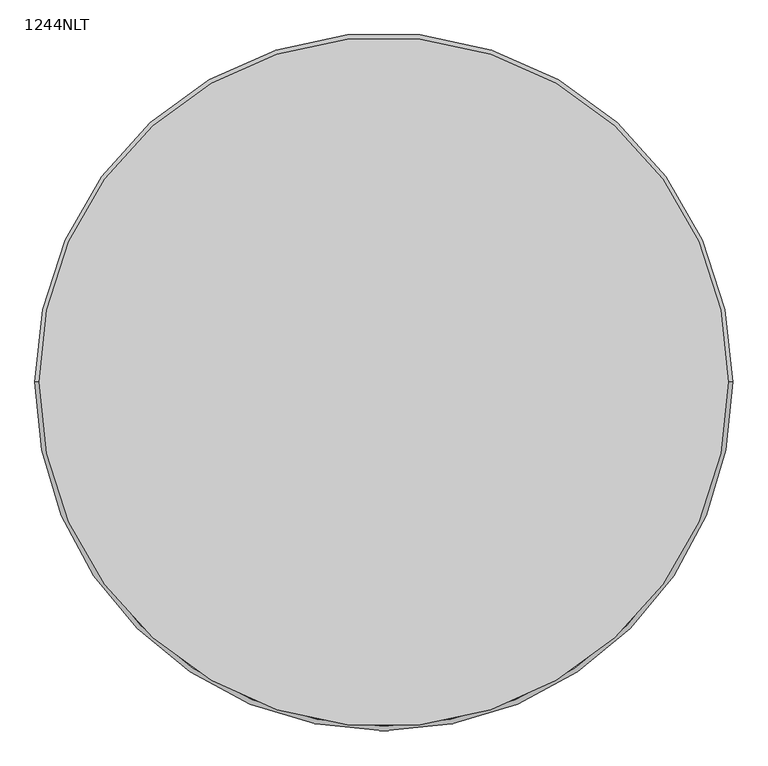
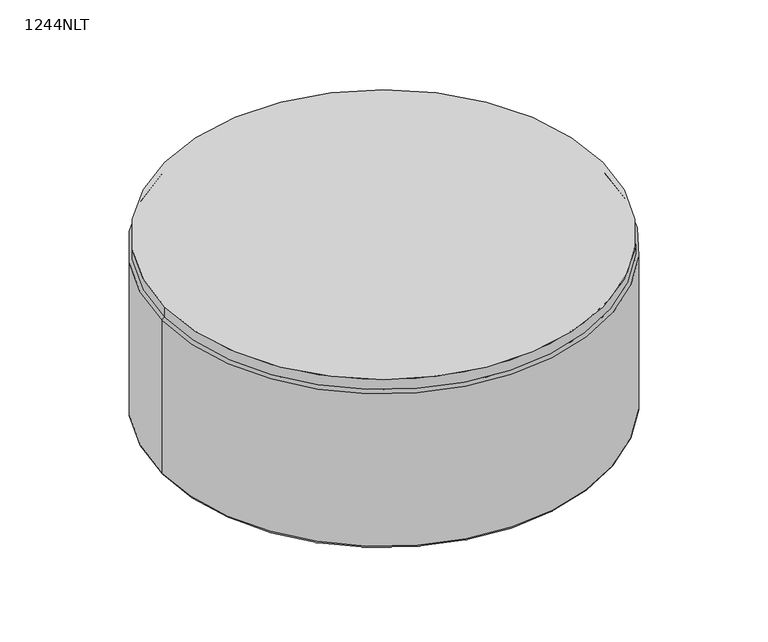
"""IFC4 building model written with IfcOpenShell, lengths in millimetres: furniture geometry, Laguna-Round_Ottomans-No_Legs-ERG : 1244NLT."""

from ifc_helpers import new_model, si_unit, point, frame, frame_2d, origin, place, context, project, spatial, circle_curve, ellipse_curve, trimmed, segment, composite_curve, outline, extrude, source, transform, mapped, element, save
from ifc_brep_helpers import plane_surface, cylinder_surface, revolved_surface, advanced_brep


def furniture_1244nlt_2f33470e(model_context):
    return source(origin(), model_context, "Body", "SolidModel", [
        extrude(outline(composite_curve([segment(trimmed(circle_curve(frame_2d((-4662.7421763, 1234.1558502)), 520.7), [point((-5183.4421763, 1234.1558502))], [point((-4142.0421763, 1234.1558502))], False, "CARTESIAN"), True, "CONTINUOUS"), segment(trimmed(circle_curve(frame_2d((-4662.7421763, 1234.1558502)), 520.7), [point((-4142.0421763, 1234.1558502))], [point((-5183.4421763, 1234.1558502))], False, "CARTESIAN"), True, "CONTINUOUS")], self_intersect=False)), frame((0.0, 0.0, 406.4), z_axis=(0.0, 0.0, 1.0), x_axis=(1.0, 0.0, 0.0)), (0.0, 0.0, 1.0), 25.4),
        advanced_brep(
        [(-4167.4421763, 1234.1558502, 10.16), (-4171.6852245, 1234.1558502, 10.16), (-4163.1991282, 1234.1558502, 10.16), (-4153.3638229, 1234.1558502, 0.0), (-4181.5205297, 1234.1558502, 0.0), (-4167.4421763, 1234.1558502, 0.0), (-4153.3638229, 1234.1558502, 3.9615026), (-4181.5205297, 1234.1558502, 3.9615026), (-4163.1991282, 1234.1558502, 3.9615026), (-4171.6852245, 1234.1558502, 3.9615026)],
        [
            (0, 1),
            (1, 2, circle_curve(frame((-4167.4421763, 1234.1558502, 10.16), z_axis=(0.0, 0.0, 1.0), x_axis=(-1.0, 0.0, 0.0)), 4.2430482)),
            (2, 0),
            (2, 1, circle_curve(frame((-4167.4421763, 1234.1558502, 10.16), z_axis=(0.0, 0.0, 1.0), x_axis=(-1.0, 0.0, 0.0)), 4.2430482)),
            (3, 4, circle_curve(frame((-4167.4421763, 1234.1558502, 0.0), z_axis=(0.0, 0.0, -1.0), x_axis=(-1.0, 0.0, 0.0)), 14.0783534)),
            (4, 5),
            (5, 3),
            (4, 3, circle_curve(frame((-4167.4421763, 1234.1558502, 0.0), z_axis=(0.0, 0.0, -1.0), x_axis=(-1.0, 0.0, 0.0)), 14.0783534)),
            (6, 7, circle_curve(frame((-4167.4421763, 1234.1558502, 3.9615026), z_axis=(0.0, 0.0, -1.0), x_axis=(-1.0, 0.0, 0.0)), 14.0783534)),
            (7, 4),
            (3, 6),
            (7, 6, circle_curve(frame((-4167.4421763, 1234.1558502, 3.9615026), z_axis=(0.0, 0.0, -1.0), x_axis=(-1.0, 0.0, 0.0)), 14.0783534)),
            (8, 9, circle_curve(frame((-4167.4421763, 1234.1558502, 3.9615026), z_axis=(0.0, 0.0, -1.0), x_axis=(-1.0, 0.0, 0.0)), 4.2430482)),
            (9, 7),
            (6, 8),
            (9, 8, circle_curve(frame((-4167.4421763, 1234.1558502, 3.9615026), z_axis=(0.0, 0.0, -1.0), x_axis=(-1.0, 0.0, 0.0)), 4.2430482)),
            (1, 9),
            (8, 2),
        ],
        [
            plane_surface(frame((-4167.4421763, 1234.1558502, 10.16), z_axis=(0.0, 0.0, 1.0), x_axis=(-1.0, 0.0, 0.0))),
            plane_surface(frame((-4167.4421763, 1234.1558502, 0.0), z_axis=(0.0, 0.0, -1.0), x_axis=(-1.0, 0.0, 0.0))),
            cylinder_surface(frame((-4167.4421763, 1234.1558502, 80.01), z_axis=(0.0, 0.0, 1.0), x_axis=(-1.0, 0.0, 0.0)), 14.0783534),
            plane_surface(frame((-4167.4421763, 1234.1558502, 3.9615026), z_axis=(0.0, 0.0, 1.0), x_axis=(-1.0, 0.0, 0.0))),
            cylinder_surface(frame((-4167.4421763, 1234.1558502, 80.01), z_axis=(0.0, 0.0, 1.0), x_axis=(-1.0, 0.0, 0.0)), 4.2430482),
        ],
        [
            (0, [[1, 2, 3]]),
            (0, [[-3, 4, -1]]),
            (1, [[5, 6, 7]]),
            (1, [[8, -7, -6]]),
            (2, [[9, 10, -5, 11]]),
            (2, [[12, -11, -8, -10]]),
            (3, [[13, 14, -9, 15]]),
            (3, [[16, -15, -12, -14]]),
            (4, [[-2, 17, -13, 18]]),
            (4, [[-4, -18, -16, -17]]),
        ],
    ),
        advanced_brep(
        [(-5162.2852245, 1234.1558502, 3.9615026), (-5153.7991282, 1234.1558502, 3.9615026), (-5153.7991282, 1234.1558502, 10.16), (-5162.2852245, 1234.1558502, 10.16), (-5172.1205297, 1234.1558502, 3.9615026), (-5143.9638229, 1234.1558502, 3.9615026), (-5172.1205297, 1234.1558502, 0.0), (-5143.9638229, 1234.1558502, 0.0), (-5158.0421763, 1234.1558502, 0.0), (-5158.0421763, 1234.1558502, 10.16)],
        [
            (0, 1, circle_curve(frame((-5158.0421763, 1234.1558502, 3.9615026), z_axis=(0.0, 0.0, 1.0), x_axis=(1.0, 0.0, 0.0)), 4.2430482)),
            (1, 2),
            (2, 3, circle_curve(frame((-5158.0421763, 1234.1558502, 10.16), z_axis=(0.0, 0.0, -1.0), x_axis=(1.0, 0.0, 0.0)), 4.2430482)),
            (3, 0),
            (1, 0, circle_curve(frame((-5158.0421763, 1234.1558502, 3.9615026), z_axis=(0.0, 0.0, 1.0), x_axis=(1.0, 0.0, 0.0)), 4.2430482)),
            (3, 2, circle_curve(frame((-5158.0421763, 1234.1558502, 10.16), z_axis=(0.0, 0.0, -1.0), x_axis=(1.0, 0.0, 0.0)), 4.2430482)),
            (4, 5, circle_curve(frame((-5158.0421763, 1234.1558502, 3.9615026), z_axis=(0.0, 0.0, 1.0), x_axis=(1.0, 0.0, 0.0)), 14.0783534)),
            (5, 1),
            (0, 4),
            (5, 4, circle_curve(frame((-5158.0421763, 1234.1558502, 3.9615026), z_axis=(0.0, 0.0, 1.0), x_axis=(1.0, 0.0, 0.0)), 14.0783534)),
            (6, 7, circle_curve(frame((-5158.0421763, 1234.1558502, 0.0), z_axis=(0.0, 0.0, 1.0), x_axis=(1.0, 0.0, 0.0)), 14.0783534)),
            (7, 5),
            (4, 6),
            (7, 6, circle_curve(frame((-5158.0421763, 1234.1558502, 0.0), z_axis=(0.0, 0.0, 1.0), x_axis=(1.0, 0.0, 0.0)), 14.0783534)),
            (8, 7),
            (6, 8),
            (2, 9),
            (9, 3),
        ],
        [
            cylinder_surface(frame((-5158.0421763, 1234.1558502, 29.21), z_axis=(0.0, 0.0, -1.0), x_axis=(1.0, 0.0, 0.0)), 4.2430482),
            plane_surface(frame((-5158.0421763, 1234.1558502, 3.9615026), z_axis=(0.0, 0.0, 1.0), x_axis=(1.0, 0.0, 0.0))),
            cylinder_surface(frame((-5158.0421763, 1234.1558502, 29.21), z_axis=(0.0, 0.0, -1.0), x_axis=(1.0, 0.0, 0.0)), 14.0783534),
            plane_surface(frame((-5158.0421763, 1234.1558502, 0.0), z_axis=(0.0, 0.0, -1.0), x_axis=(1.0, 0.0, 0.0))),
            plane_surface(frame((-5158.0421763, 1234.1558502, 10.16), z_axis=(0.0, 0.0, 1.0), x_axis=(1.0, 0.0, 0.0))),
        ],
        [
            (0, [[1, 2, 3, 4]]),
            (0, [[5, -4, 6, -2]]),
            (1, [[7, 8, -1, 9]]),
            (1, [[10, -9, -5, -8]]),
            (2, [[11, 12, -7, 13]]),
            (2, [[14, -13, -10, -12]]),
            (3, [[15, -11, 16]]),
            (3, [[-16, -14, -15]]),
            (4, [[-3, 17, 18]]),
            (4, [[-6, -18, -17]]),
        ],
    ),
        advanced_brep(
        [(-4662.7421763, 743.0988983, 3.9615026), (-4662.7421763, 734.612802, 3.9615026), (-4662.7421763, 734.612802, 10.16), (-4662.7421763, 743.0988983, 10.16), (-4662.7421763, 752.9342036, 3.9615026), (-4662.7421763, 724.7774967, 3.9615026), (-4662.7421763, 752.9342036, 0.0), (-4662.7421763, 724.7774967, 0.0), (-4662.7421763, 738.8558502, 0.0), (-4662.7421763, 738.8558502, 10.16)],
        [
            (0, 1, circle_curve(frame((-4662.7421763, 738.8558502, 3.9615026), z_axis=(0.0, 0.0, 1.0), x_axis=(0.0, -1.0, 0.0)), 4.2430482)),
            (1, 2),
            (2, 3, circle_curve(frame((-4662.7421763, 738.8558502, 10.16), z_axis=(0.0, 0.0, -1.0), x_axis=(0.0, -1.0, 0.0)), 4.2430482)),
            (3, 0),
            (1, 0, circle_curve(frame((-4662.7421763, 738.8558502, 3.9615026), z_axis=(0.0, 0.0, 1.0), x_axis=(0.0, -1.0, 0.0)), 4.2430482)),
            (3, 2, circle_curve(frame((-4662.7421763, 738.8558502, 10.16), z_axis=(0.0, 0.0, -1.0), x_axis=(0.0, -1.0, 0.0)), 4.2430482)),
            (4, 5, circle_curve(frame((-4662.7421763, 738.8558502, 3.9615026), z_axis=(0.0, 0.0, 1.0), x_axis=(0.0, -1.0, 0.0)), 14.0783534)),
            (5, 1),
            (0, 4),
            (5, 4, circle_curve(frame((-4662.7421763, 738.8558502, 3.9615026), z_axis=(0.0, 0.0, 1.0), x_axis=(0.0, -1.0, 0.0)), 14.0783534)),
            (6, 7, circle_curve(frame((-4662.7421763, 738.8558502, 0.0), z_axis=(0.0, 0.0, 1.0), x_axis=(0.0, -1.0, 0.0)), 14.0783534)),
            (7, 5),
            (4, 6),
            (7, 6, circle_curve(frame((-4662.7421763, 738.8558502, 0.0), z_axis=(0.0, 0.0, 1.0), x_axis=(0.0, -1.0, 0.0)), 14.0783534)),
            (8, 7),
            (6, 8),
            (2, 9),
            (9, 3),
        ],
        [
            cylinder_surface(frame((-4662.7421763, 738.8558502, 39.775957), z_axis=(0.0, 0.0, -1.0), x_axis=(0.0, -1.0, 0.0)), 4.2430482),
            plane_surface(frame((-4662.7421763, 738.8558502, 3.9615026), z_axis=(0.0, 0.0, 1.0), x_axis=(0.0, -1.0, 0.0))),
            cylinder_surface(frame((-4662.7421763, 738.8558502, 39.775957), z_axis=(0.0, 0.0, -1.0), x_axis=(0.0, -1.0, 0.0)), 14.0783534),
            plane_surface(frame((-4662.7421763, 738.8558502, 0.0), z_axis=(0.0, 0.0, -1.0), x_axis=(0.0, -1.0, 0.0))),
            plane_surface(frame((-4662.7421763, 738.8558502, 10.16), z_axis=(0.0, 0.0, 1.0), x_axis=(0.0, -1.0, 0.0))),
        ],
        [
            (0, [[1, 2, 3, 4]]),
            (0, [[5, -4, 6, -2]]),
            (1, [[7, 8, -1, 9]]),
            (1, [[10, -9, -5, -8]]),
            (2, [[11, 12, -7, 13]]),
            (2, [[14, -13, -10, -12]]),
            (3, [[15, -11, 16]]),
            (3, [[-16, -14, -15]]),
            (4, [[-3, 17, 18]]),
            (4, [[-6, -18, -17]]),
        ],
    ),
        advanced_brep(
        [(-4662.7421763, 1733.6988983, 3.9615026), (-4662.7421763, 1725.212802, 3.9615026), (-4662.7421763, 1725.212802, 10.16), (-4662.7421763, 1733.6988983, 10.16), (-4662.7421763, 1743.5342036, 3.9615026), (-4662.7421763, 1715.3774967, 3.9615026), (-4662.7421763, 1743.5342036, 0.0), (-4662.7421763, 1715.3774967, 0.0), (-4662.7421763, 1729.4558502, 0.0), (-4662.7421763, 1729.4558502, 10.16)],
        [
            (0, 1, circle_curve(frame((-4662.7421763, 1729.4558502, 3.9615026), z_axis=(0.0, 0.0, 1.0), x_axis=(0.0, -1.0, 0.0)), 4.2430482)),
            (1, 2),
            (2, 3, circle_curve(frame((-4662.7421763, 1729.4558502, 10.16), z_axis=(0.0, 0.0, -1.0), x_axis=(0.0, -1.0, 0.0)), 4.2430482)),
            (3, 0),
            (1, 0, circle_curve(frame((-4662.7421763, 1729.4558502, 3.9615026), z_axis=(0.0, 0.0, 1.0), x_axis=(0.0, -1.0, 0.0)), 4.2430482)),
            (3, 2, circle_curve(frame((-4662.7421763, 1729.4558502, 10.16), z_axis=(0.0, 0.0, -1.0), x_axis=(0.0, -1.0, 0.0)), 4.2430482)),
            (4, 5, circle_curve(frame((-4662.7421763, 1729.4558502, 3.9615026), z_axis=(0.0, 0.0, 1.0), x_axis=(0.0, -1.0, 0.0)), 14.0783534)),
            (5, 1),
            (0, 4),
            (5, 4, circle_curve(frame((-4662.7421763, 1729.4558502, 3.9615026), z_axis=(0.0, 0.0, 1.0), x_axis=(0.0, -1.0, 0.0)), 14.0783534)),
            (6, 7, circle_curve(frame((-4662.7421763, 1729.4558502, 0.0), z_axis=(0.0, 0.0, 1.0), x_axis=(0.0, -1.0, 0.0)), 14.0783534)),
            (7, 5),
            (4, 6),
            (7, 6, circle_curve(frame((-4662.7421763, 1729.4558502, 0.0), z_axis=(0.0, 0.0, 1.0), x_axis=(0.0, -1.0, 0.0)), 14.0783534)),
            (8, 7),
            (6, 8),
            (2, 9),
            (9, 3),
        ],
        [
            cylinder_surface(frame((-4662.7421763, 1729.4558502, 48.26), z_axis=(0.0, 0.0, -1.0), x_axis=(0.0, -1.0, 0.0)), 4.2430482),
            plane_surface(frame((-4662.7421763, 1729.4558502, 3.9615026), z_axis=(0.0, 0.0, 1.0), x_axis=(0.0, -1.0, 0.0))),
            cylinder_surface(frame((-4662.7421763, 1729.4558502, 48.26), z_axis=(0.0, 0.0, -1.0), x_axis=(0.0, -1.0, 0.0)), 14.0783534),
            plane_surface(frame((-4662.7421763, 1729.4558502, 0.0), z_axis=(0.0, 0.0, -1.0), x_axis=(0.0, -1.0, 0.0))),
            plane_surface(frame((-4662.7421763, 1729.4558502, 10.16), z_axis=(0.0, 0.0, 1.0), x_axis=(0.0, -1.0, 0.0))),
        ],
        [
            (0, [[1, 2, 3, 4]]),
            (0, [[5, -4, 6, -2]]),
            (1, [[7, 8, -1, 9]]),
            (1, [[10, -9, -5, -8]]),
            (2, [[11, 12, -7, 13]]),
            (2, [[14, -13, -10, -12]]),
            (3, [[15, -11, 16]]),
            (3, [[-16, -14, -15]]),
            (4, [[-3, 17, 18]]),
            (4, [[-6, -18, -17]]),
        ],
    ),
        advanced_brep(
        [(-4135.681116, 1234.1558502, 399.8831003), (-5189.8032366, 1234.1558502, 399.8831003), (-5189.8032366, 1234.1558502, 16.6768997), (-4135.681116, 1234.1558502, 16.6768997), (-4142.6439761, 1234.1558502, 406.4), (-5182.8403765, 1234.1558502, 406.4), (-5182.8403765, 1234.1558502, 10.16), (-4142.6439761, 1234.1558502, 10.16)],
        [
            (0, 1, circle_curve(frame((-4662.7421763, 1234.1558502, 399.8831003), z_axis=(0.0, 0.0, -1.0), x_axis=(-1.0, 0.0, 0.0)), 527.0610603)),
            (1, 2, circle_curve(frame((-2297.2401763, 1234.1558502, 208.28), z_axis=(0.0, -1.0, 0.0), x_axis=(1.0, 0.0, 0.0)), 2898.902)),
            (2, 3, circle_curve(frame((-4662.7421763, 1234.1558502, 16.6768997), z_axis=(0.0, 0.0, 1.0), x_axis=(-1.0, 0.0, 0.0)), 527.0610603)),
            (3, 0, circle_curve(frame((-7028.2441763, 1234.1558502, 208.28), z_axis=(0.0, -1.0, 0.0), x_axis=(-1.0, 0.0, 0.0)), 2898.902)),
            (0, 4, circle_curve(frame((-4142.6439761, 1234.1558502, 399.4218811), z_axis=(0.0, -1.0, 0.0), x_axis=(-1.0, 0.0, 0.0)), 6.9781189)),
            (4, 5, circle_curve(frame((-4662.7421763, 1234.1558502, 406.4), z_axis=(0.0, 0.0, -1.0), x_axis=(-1.0, 0.0, 0.0)), 520.0982002)),
            (5, 1, circle_curve(frame((-5182.8403765, 1234.1558502, 399.4218811), z_axis=(0.0, -1.0, 0.0), x_axis=(1.0, 0.0, 0.0)), 6.9781189)),
            (2, 6, circle_curve(frame((-5182.8403765, 1234.1558502, 17.1381189), z_axis=(0.0, -1.0, 0.0), x_axis=(1.0, 0.0, 0.0)), 6.9781189)),
            (6, 7, circle_curve(frame((-4662.7421763, 1234.1558502, 10.16), z_axis=(0.0, 0.0, 1.0), x_axis=(-1.0, 0.0, 0.0)), 520.0982002)),
            (7, 3, circle_curve(frame((-4142.6439761, 1234.1558502, 17.1381189), z_axis=(0.0, -1.0, 0.0), x_axis=(-1.0, 0.0, 0.0)), 6.9781189)),
            (1, 0, circle_curve(frame((-4662.7421763, 1234.1558502, 399.8831003), z_axis=(0.0, 0.0, -1.0), x_axis=(1.0, 0.0, 0.0)), 527.0610603)),
            (3, 2, circle_curve(frame((-4662.7421763, 1234.1558502, 16.6768997), z_axis=(0.0, 0.0, 1.0), x_axis=(1.0, 0.0, 0.0)), 527.0610603)),
            (5, 4, circle_curve(frame((-4662.7421763, 1234.1558502, 406.4), z_axis=(0.0, 0.0, -1.0), x_axis=(1.0, 0.0, 0.0)), 520.0982002)),
            (7, 6, circle_curve(frame((-4662.7421763, 1234.1558502, 10.16), z_axis=(0.0, 0.0, 1.0), x_axis=(1.0, 0.0, 0.0)), 520.0982002)),
        ],
        [
            revolved_surface(trimmed(ellipse_curve(frame((-2297.2401763, 1234.1558502, 208.28), z_axis=(0.0, 1.0, 0.0), x_axis=(1.0, 0.0, 0.0)), 2898.902, 2898.902), [point((-5189.8032366, 1234.1558502, 16.6768997))], [point((-5189.8032366, 1234.1558502, 399.8831003))], True, "CARTESIAN"), (-4662.7421763, 1234.1558502, 0.0), (0.0, 0.0, 1.0)),
            revolved_surface(trimmed(ellipse_curve(frame((-5182.8403765, 1234.1558502, 399.4218811), z_axis=(0.0, 1.0, 0.0), x_axis=(1.0, 0.0, 0.0)), 6.9781189, 6.9781189), [point((-5189.8032366, 1234.1558502, 399.8831003))], [point((-5182.8403765, 1234.1558502, 406.4))], True, "CARTESIAN"), (-4662.7421763, 1234.1558502, 0.0), (0.0, 0.0, 1.0)),
            revolved_surface(trimmed(ellipse_curve(frame((-5182.8403765, 1234.1558502, 17.1381189), z_axis=(0.0, 1.0, 0.0), x_axis=(1.0, 0.0, 0.0)), 6.9781189, 6.9781189), [point((-5182.8403765, 1234.1558502, 10.16))], [point((-5189.8032366, 1234.1558502, 16.6768997))], True, "CARTESIAN"), (-4662.7421763, 1234.1558502, 0.0), (0.0, 0.0, 1.0)),
            revolved_surface(trimmed(ellipse_curve(frame((-7028.2441763, 1234.1558502, 208.28), z_axis=(0.0, -1.0, 0.0), x_axis=(-1.0, 0.0, 0.0)), 2898.902, 2898.902), [point((-4135.681116, 1234.1558502, 16.6768997))], [point((-4135.681116, 1234.1558502, 399.8831003))], True, "CARTESIAN"), (-4662.7421763, 1234.1558502, 0.0), (0.0, 0.0, 1.0)),
            revolved_surface(trimmed(ellipse_curve(frame((-4142.6439761, 1234.1558502, 399.4218811), z_axis=(0.0, -1.0, 0.0), x_axis=(-1.0, 0.0, 0.0)), 6.9781189, 6.9781189), [point((-4135.681116, 1234.1558502, 399.8831003))], [point((-4142.6439761, 1234.1558502, 406.4))], True, "CARTESIAN"), (-4662.7421763, 1234.1558502, 0.0), (0.0, 0.0, 1.0)),
            revolved_surface(trimmed(ellipse_curve(frame((-4142.6439761, 1234.1558502, 17.1381189), z_axis=(0.0, -1.0, 0.0), x_axis=(-1.0, 0.0, 0.0)), 6.9781189, 6.9781189), [point((-4142.6439761, 1234.1558502, 10.16))], [point((-4135.681116, 1234.1558502, 16.6768997))], True, "CARTESIAN"), (-4662.7421763, 1234.1558502, 0.0), (0.0, 0.0, 1.0)),
            plane_surface(frame((-4142.6439761, 1234.1558502, 406.4), z_axis=(0.0, 0.0, 1.0), x_axis=(0.0, 1.0, 0.0))),
            plane_surface(frame((-4142.6439761, 1234.1558502, 10.16), z_axis=(0.0, 0.0, -1.0), x_axis=(0.0, -1.0, 0.0))),
        ],
        [
            (0, [[1, 2, 3, 4]]),
            (1, [[-1, 5, 6, 7]]),
            (2, [[-3, 8, 9, 10]]),
            (3, [[-2, 11, -4, 12]]),
            (4, [[-7, 13, -5, -11]]),
            (5, [[-8, -12, -10, 14]]),
            (6, [[-6, -13]]),
            (7, [[-9, -14]]),
        ],
    ),
    ])


if __name__ == "__main__":
    model = new_model("IFC4")
    model_context = context("Model", 3, world=origin())
    ifc_project = project(units=[si_unit("LENGTHUNIT", "METRE", prefix="MILLI")], contexts=[model_context])
    site = spatial("IfcSite", under=ifc_project)
    building = spatial("IfcBuilding", under=site)
    placement = place(None, origin())
    furniture_1244nlt_shape = furniture_1244nlt_2f33470e(model_context)
    element("IfcFurniture", 1, ObjectType="Laguna-Round_Ottomans-No_Legs-ERG : 1244NLT", at=placement, inside=building, context=model_context, shape_type="MappedRepresentation", body=[
        mapped(furniture_1244nlt_shape, transform((0.0, 0.0, 0.0), x_axis=(1.0, 0.0, 0.0), y_axis=(0.0, 1.0, 0.0), z_axis=(0.0, 0.0, 1.0))),
    ])
    save(model, "model.ifc")
